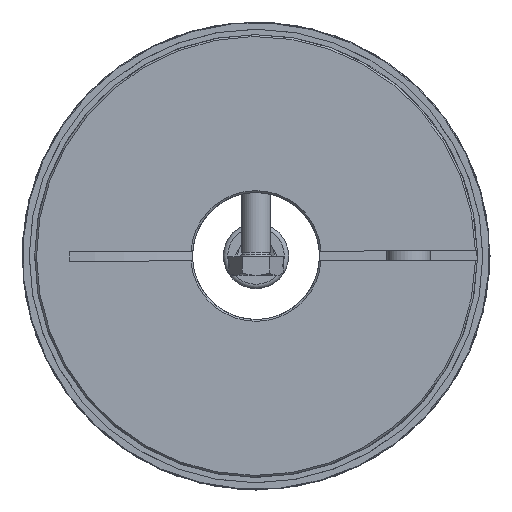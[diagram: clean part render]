
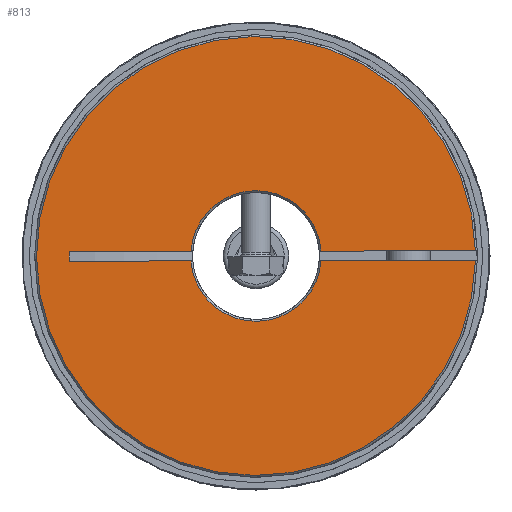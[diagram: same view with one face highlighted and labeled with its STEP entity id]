
A CAD part, left-side view. The second image highlights one B-rep face of the part: STEP entity #813.
In plain terms, the highlighted planar face has unit normal (-1, 0, 0).
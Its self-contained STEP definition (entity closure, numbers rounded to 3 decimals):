
#813 = ADVANCED_FACE( 'NONE', ( #1535 ), #1536, .F. );
#1535 = FACE_OUTER_BOUND( '', #2152, .T. );
#1536 = PLANE( '', #2153 );
#2152 = EDGE_LOOP( '', ( #3140, #3141, #3142, #3143, #3144, #3145, #3146, #3147 ) );
#2153 = AXIS2_PLACEMENT_3D( '', #3148, #3149, #3150 );
#3140 = ORIENTED_EDGE( '', *, *, #3927, .T. );
#3141 = ORIENTED_EDGE( '', *, *, #3920, .T. );
#3142 = ORIENTED_EDGE( '', *, *, #3929, .T. );
#3143 = ORIENTED_EDGE( '', *, *, #3930, .T. );
#3144 = ORIENTED_EDGE( '', *, *, #3912, .F. );
#3145 = ORIENTED_EDGE( '', *, *, #3910, .T. );
#3146 = ORIENTED_EDGE( '', *, *, #3916, .F. );
#3147 = ORIENTED_EDGE( '', *, *, #3919, .T. );
#3148 = CARTESIAN_POINT( '', ( 0., 17.5, 0. ) );
#3149 = DIRECTION( '', ( 1., 0., 0. ) );
#3150 = DIRECTION( '', ( 0., 1., 0. ) );
#3910 = EDGE_CURVE( 'NONE', #4447, #4445, #4448, .T. );
#3912 = EDGE_CURVE( 'NONE', #4447, #4450, #4451, .F. );
#3916 = EDGE_CURVE( 'NONE', #4456, #4445, #4457, .F. );
#3919 = EDGE_CURVE( 'NONE', #4456, #4459, #4461, .T. );
#3920 = EDGE_CURVE( 'NONE', #4462, #4463, #4464, .T. );
#3927 = EDGE_CURVE( 'NONE', #4459, #4462, #4472, .T. );
#3929 = EDGE_CURVE( 'NONE', #4463, #4475, #4476, .T. );
#3930 = EDGE_CURVE( 'NONE', #4475, #4450, #4477, .F. );
#4445 = VERTEX_POINT( 'NONE', #5448 );
#4447 = VERTEX_POINT( 'NONE', #5453 );
#4448 = CIRCLE( '', #5454, 18. );
#4450 = VERTEX_POINT( 'NONE', #5459 );
#4451 = LINE( '', #5460, #5461 );
#4456 = VERTEX_POINT( 'NONE', #5470 );
#4457 = LINE( '', #5471, #5472 );
#4459 = VERTEX_POINT( 'NONE', #5474 );
#4461 = LINE( '', #5476, #5477 );
#4462 = VERTEX_POINT( 'NONE', #5478 );
#4463 = VERTEX_POINT( 'NONE', #5479 );
#4464 = CIRCLE( '', #5480, 18. );
#4472 = LINE( '', #5495, #5496 );
#4475 = VERTEX_POINT( 'NONE', #5499 );
#4476 = LINE( '', #5500, #5501 );
#4477 = CIRCLE( '', #5502, 60.5 );
#5448 = CARTESIAN_POINT( '', ( 0., 17.953, -1.3 ) );
#5453 = CARTESIAN_POINT( '', ( 0., -17.953, -1.3 ) );
#5454 = AXIS2_PLACEMENT_3D( '', #5970, #5971, #5972 );
#5459 = CARTESIAN_POINT( '', ( 0., -60.486, -1.3 ) );
#5460 = CARTESIAN_POINT( '', ( 0., -13., -1.3 ) );
#5461 = VECTOR( '', #5973, 1000. );
#5470 = CARTESIAN_POINT( '', ( 0., 51.446, -1.3 ) );
#5471 = CARTESIAN_POINT( '', ( 0., -13., -1.3 ) );
#5472 = VECTOR( '', #5978, 1000. );
#5474 = CARTESIAN_POINT( '', ( 0., 51.446, 1.3 ) );
#5476 = CARTESIAN_POINT( '', ( 0., 51.446, -1.3 ) );
#5477 = VECTOR( '', #5985, 1000. );
#5478 = CARTESIAN_POINT( '', ( 0., 17.953, 1.3 ) );
#5479 = CARTESIAN_POINT( '', ( 0., -17.953, 1.3 ) );
#5480 = AXIS2_PLACEMENT_3D( '', #5986, #5987, #5988 );
#5495 = CARTESIAN_POINT( '', ( 0., 17.5, 1.3 ) );
#5496 = VECTOR( '', #5999, 1000. );
#5499 = CARTESIAN_POINT( '', ( 0., -60.486, 1.3 ) );
#5500 = CARTESIAN_POINT( '', ( 0., 17.5, 1.3 ) );
#5501 = VECTOR( '', #6003, 1000. );
#5502 = AXIS2_PLACEMENT_3D( '', #6004, #6005, #6006 );
#5970 = CARTESIAN_POINT( '', ( 0., 0., 0. ) );
#5971 = DIRECTION( '', ( 1., 0., 0. ) );
#5972 = DIRECTION( '', ( 0., 0., -1. ) );
#5973 = DIRECTION( '', ( 0., 1., 0. ) );
#5978 = DIRECTION( '', ( 0., 1., 0. ) );
#5985 = DIRECTION( '', ( 0., 0., 1. ) );
#5986 = CARTESIAN_POINT( '', ( 0., 0., 0. ) );
#5987 = DIRECTION( '', ( 1., 0., 0. ) );
#5988 = DIRECTION( '', ( 0., 0., -1. ) );
#5999 = DIRECTION( '', ( 0., -1., 0. ) );
#6003 = DIRECTION( '', ( 0., -1., 0. ) );
#6004 = CARTESIAN_POINT( '', ( 0., 0., 0. ) );
#6005 = DIRECTION( '', ( 1., 0., 0. ) );
#6006 = DIRECTION( '', ( 0., 0., -1. ) );
